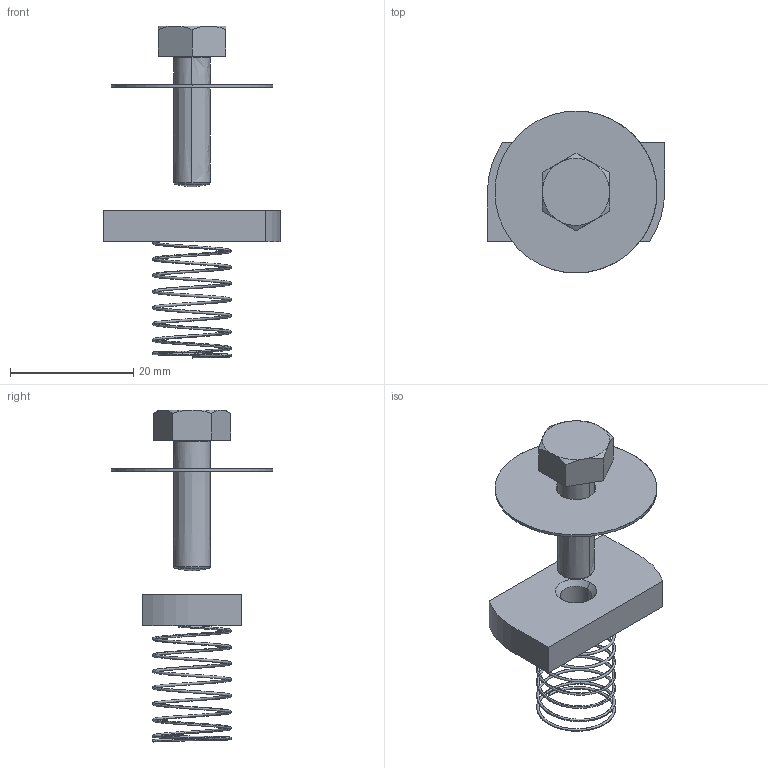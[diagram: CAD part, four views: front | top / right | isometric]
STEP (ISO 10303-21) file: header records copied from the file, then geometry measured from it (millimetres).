
FILE_DESCRIPTION(/* description */ (''),/* implementation_level */ '2;1');
FILE_NAME(/* name */ 'MSM M6',/* time_stamp */ '2012-11-29T22:50:30+01:00',/* author */ (''),/* organization */ (''),/* preprocessor_version */ 'ST-DEVELOPER v10',/* originating_system */ '',/* authorisation */ '');
FILE_SCHEMA (('AUTOMOTIVE_DESIGN_CC2'));
Length unit declared in the file: millimetre
Products named in the file (1): 1
Bounding box: 28.71 x 26.26 x 53.83 mm (x, y, z)
Surface area: 3597.5 mm2 (no closed solid volume)
Topology: 0 solids, 38 shells, 49 faces, 171 edges, 150 vertices
Faces by surface type: bspline 30, plane 19
Entity records: 8454 total; most frequent: CARTESIAN_POINT 7210, ORIENTED_EDGE 189, EDGE_CURVE 167, VERTEX_POINT 146, B_SPLINE_CURVE_WITH_KNOTS 104, EDGE_LOOP 54, ADVANCED_FACE 49, FACE_OUTER_BOUND 49
